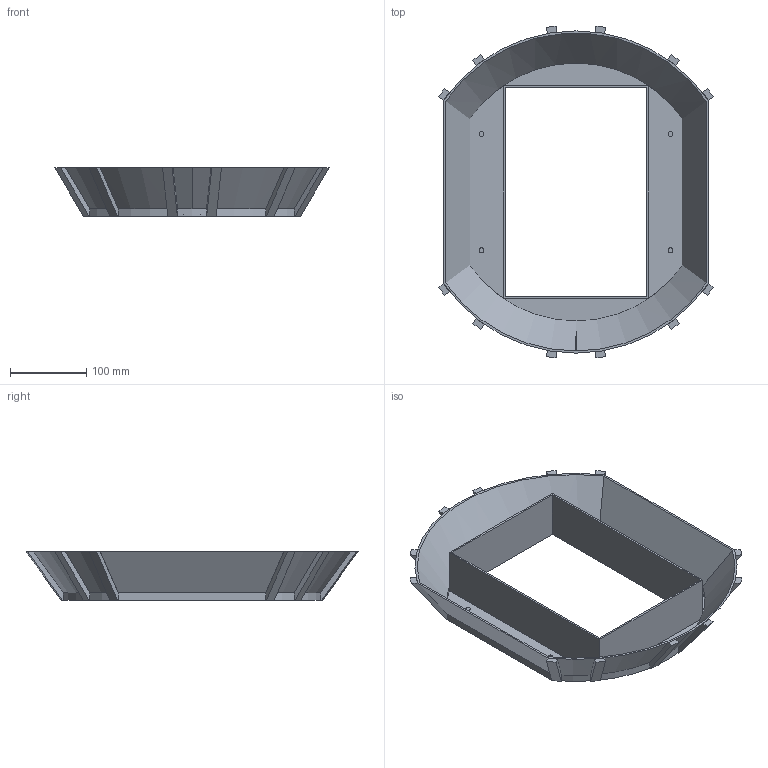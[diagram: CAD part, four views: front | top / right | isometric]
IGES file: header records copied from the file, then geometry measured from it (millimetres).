
Start section: 3D InterOp IGES (Version 21 0 3), Spatial Corp. Copyright (c) 1999-2007.
Global section: file name: CSR Skirt Assy - 20140501.igs; native system: Spatial Corp.; preprocessor: 3D InterOp GENERIC/IGES 3.0; author: Noname; organization: Noname; date: 20140501.112459; units: inch
Bounding box: 359.68 x 435.1 x 63.5 mm (x, y, z)
Surface area: 391198.1 mm2 (no closed solid volume)
Topology: 0 solids, 0 shells, 130 faces, 556 edges, 556 vertices
Faces by surface type: extrusion 112, revolution 18
